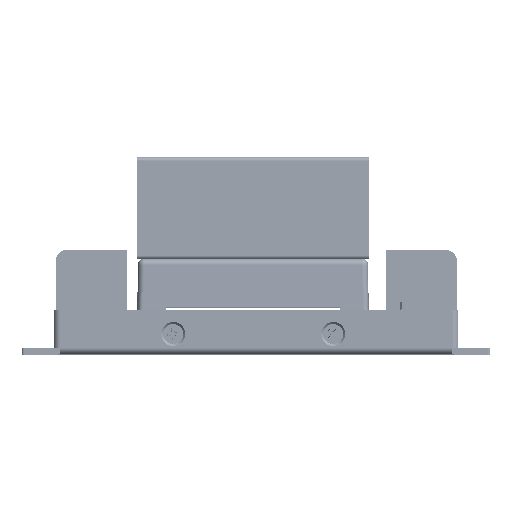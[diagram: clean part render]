
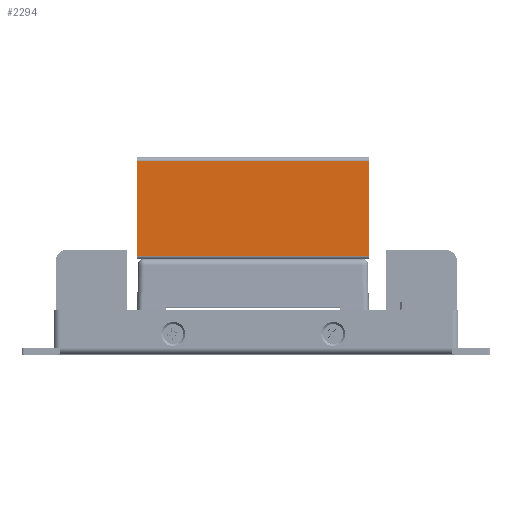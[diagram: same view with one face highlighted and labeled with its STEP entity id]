
A CAD part, top view. The second image highlights one B-rep face of the part: STEP entity #2294.
In plain terms, the highlighted planar face has unit normal (0, 0, 1) as drawn and (1, 0, 0) by its records, which use the part's own axes.
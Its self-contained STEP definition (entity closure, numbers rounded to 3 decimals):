
#2294 = ADVANCED_FACE ( 'NONE', ( #37075 ), #37073, .F. ) ;
#2295 = EDGE_LOOP ( 'NONE', ( #2296, #2300, #2355, #2358 ) ) ;
#2296 = ORIENTED_EDGE ( 'NONE', *, *, #2297, .F. ) ;
#2297 = EDGE_CURVE ( 'NONE', #2298, #2299, #36636, .T. ) ;
#2298 = VERTEX_POINT ( 'NONE', #37176 ) ;
#2299 = VERTEX_POINT ( 'NONE', #37173 ) ;
#2300 = ORIENTED_EDGE ( 'NONE', *, *, #2301, .T. ) ;
#2301 = EDGE_CURVE ( 'NONE', #2298, #2302, #37169, .T. ) ;
#2302 = VERTEX_POINT ( 'NONE', #37163 ) ;
#2355 = ORIENTED_EDGE ( 'NONE', *, *, #2356, .T. ) ;
#2356 = EDGE_CURVE ( 'NONE', #2302, #2357, #37245, .T. ) ;
#2357 = VERTEX_POINT ( 'NONE', #37238 ) ;
#2358 = ORIENTED_EDGE ( 'NONE', *, *, #2359, .F. ) ;
#2359 = EDGE_CURVE ( 'NONE', #2299, #2357, #37361, .T. ) ;
#36636 = LINE ( 'NONE', #37060, #37180 ) ;
#37060 = CARTESIAN_POINT ( 'NONE',  ( 61., 0., 58. ) ) ;
#37063 = DIRECTION ( 'NONE',  ( 0., 0., 1. ) ) ;
#37066 = DIRECTION ( 'NONE',  ( -1., 0., 0. ) ) ;
#37068 = AXIS2_PLACEMENT_3D ( 'NONE', #37071, #37066, #37063 ) ;
#37071 = CARTESIAN_POINT ( 'NONE',  ( 61., 0., 58. ) ) ;
#37073 = PLANE ( 'NONE',  #37068 ) ;
#37075 = FACE_OUTER_BOUND ( 'NONE', #2295, .T. ) ;
#37163 = CARTESIAN_POINT ( 'NONE',  ( 61., 0.8, 0. ) ) ;
#37166 = DIRECTION ( 'NONE',  ( 0., 0., -1. ) ) ;
#37167 = VECTOR ( 'NONE', #37166, 1000. ) ;
#37168 = CARTESIAN_POINT ( 'NONE',  ( 61., 0.8, 58. ) ) ;
#37169 = LINE ( 'NONE', #37168, #37167 ) ;
#37173 = CARTESIAN_POINT ( 'NONE',  ( 61., 24.5, 58. ) ) ;
#37176 = CARTESIAN_POINT ( 'NONE',  ( 61., 0.8, 58. ) ) ;
#37178 = DIRECTION ( 'NONE',  ( 0., 1., 0. ) ) ;
#37180 = VECTOR ( 'NONE', #37178, 1000. ) ;
#37238 = CARTESIAN_POINT ( 'NONE',  ( 61., 24.5, 0. ) ) ;
#37239 = DIRECTION ( 'NONE',  ( 0., 1., 0. ) ) ;
#37241 = VECTOR ( 'NONE', #37239, 1000. ) ;
#37243 = CARTESIAN_POINT ( 'NONE',  ( 61., 0., 0. ) ) ;
#37245 = LINE ( 'NONE', #37243, #37241 ) ;
#37357 = DIRECTION ( 'NONE',  ( 0., 0., -1. ) ) ;
#37358 = VECTOR ( 'NONE', #37357, 1000. ) ;
#37360 = CARTESIAN_POINT ( 'NONE',  ( 61., 24.5, 58. ) ) ;
#37361 = LINE ( 'NONE', #37360, #37358 ) ;
